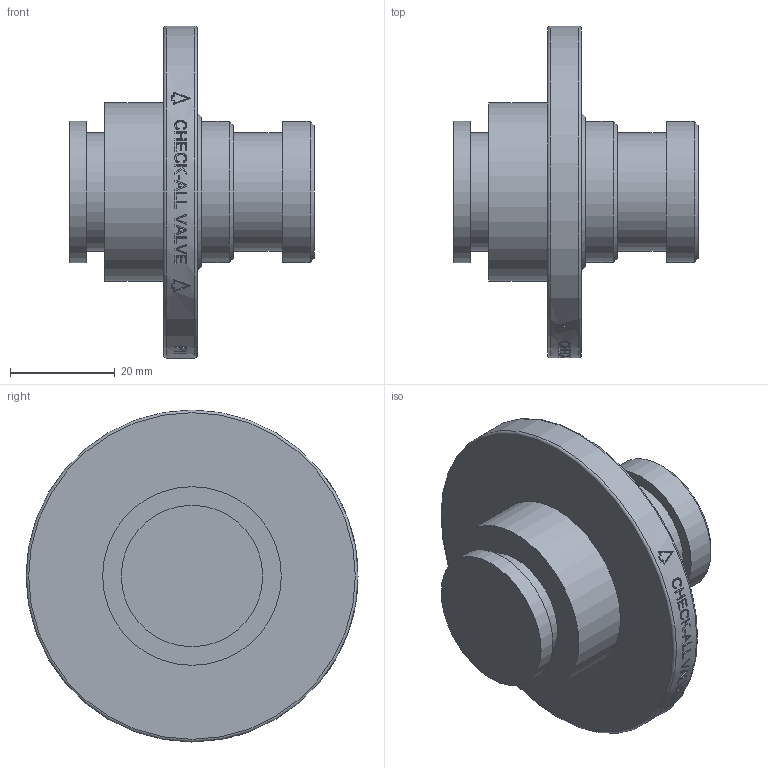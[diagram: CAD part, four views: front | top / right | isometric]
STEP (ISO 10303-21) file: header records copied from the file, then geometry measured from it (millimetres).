
FILE_DESCRIPTION( ( 'Unknown' ), '1' );
FILE_NAME( 'Y:/ENGR/3D Solid Edge Models/F1/F1 STEP/F1I.stp', 'Unknown', ( 'Unknown' ), ( 'Unknown' ), 'PSStep 14.0', 'Unknown', ' ' );
FILE_SCHEMA( ( 'AUTOMOTIVE_DESIGN { 1 0 10303 214 1 1 1 1 }' ) );
Length unit declared in the file: millimetre
Products named in the file (1): 1
Bounding box: 46.71 x 63.5 x 63.5 mm (x, y, z)
Volume: 45235.6 mm3; surface area: 11653.3 mm2
Topology: 1 solids, 1 shells, 207 faces, 521 edges, 346 vertices
Faces by surface type: plane 129, bspline 43, cylinder 30, cone 3, torus 2
Full cylindrical faces by diameter (mm): 22.606 x2, 27 x2, 27.051 x1, 34.163 x1, 63.5 x1
Entity records: 8852 total; most frequent: CARTESIAN_POINT 3327, ORIENTED_EDGE 1018, EDGE_CURVE 509, B_SPLINE_CURVE_WITH_KNOTS 489, DIRECTION 370, VERTEX_POINT 346, EDGE_LOOP 249, FACE_OUTER_BOUND 216
